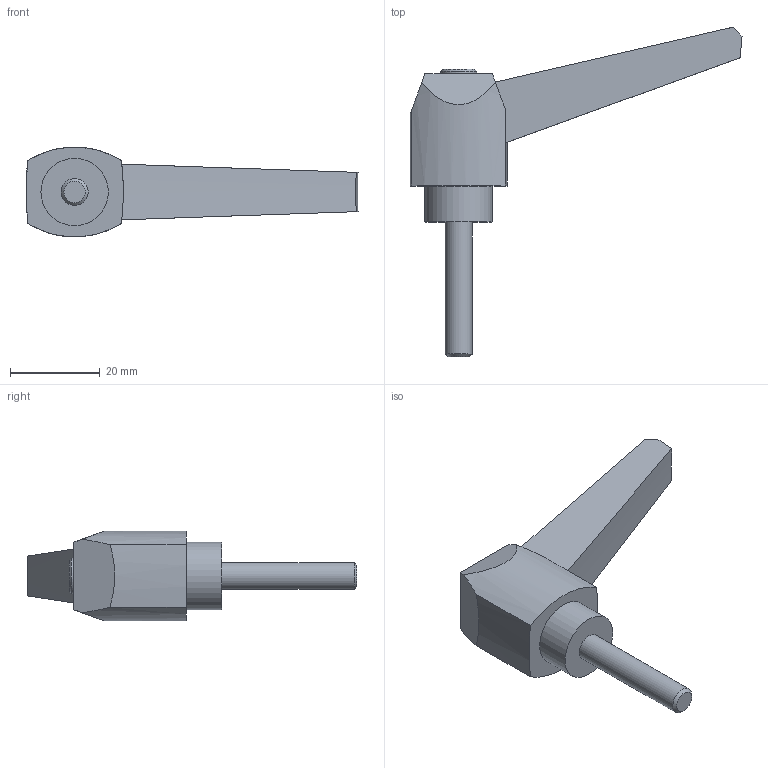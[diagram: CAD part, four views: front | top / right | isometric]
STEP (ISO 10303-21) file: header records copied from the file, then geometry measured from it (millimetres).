
FILE_DESCRIPTION( ( 'STEP AP203' ), '1' );
FILE_NAME( 'C:/Temp/Ganter_Step_05_03_2020/data/2_1/gn_500/gn_500_ms/Adjustable hand lever GN 500-63-M6-30-SW.stp', '2020-03-05T11:26:33', ( 'License CC BY-ND 4.0' ), ( 'CADENAS' ), ' ', 'PARTsolutions', ' ' );
FILE_SCHEMA( ( 'CONFIG_CONTROL_DESIGN' ) );
Length unit declared in the file: millimetre
Products named in the file (1): _Adjustable hand lever GN 500-63-M6-30-SW
Bounding box: 73.9 x 73.35 x 20 mm (x, y, z)
Volume: 17339.2 mm3; surface area: 5533.8 mm2
Topology: 1 solids, 1 shells, 24 faces, 56 edges, 37 vertices
Faces by surface type: plane 11, cylinder 7, cone 6
Full cylindrical faces by diameter (mm): 6 x1, 8 x1, 15 x1
Entity records: 708 total; most frequent: DIRECTION 122, CARTESIAN_POINT 117, ORIENTED_EDGE 100, EDGE_CURVE 50, AXIS2_PLACEMENT_3D 49, VERTEX_POINT 36, EDGE_LOOP 32, FACE_OUTER_BOUND 27
